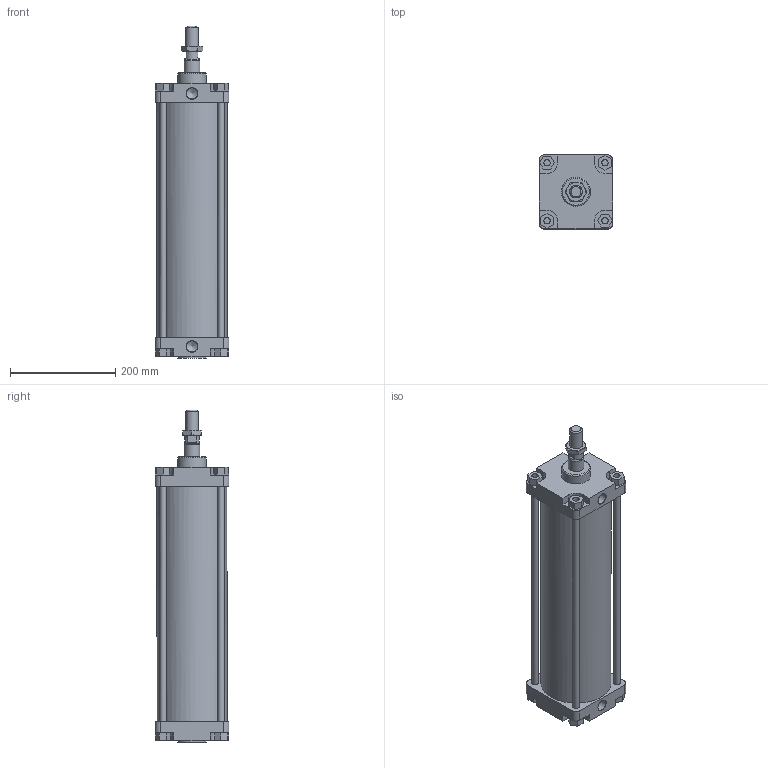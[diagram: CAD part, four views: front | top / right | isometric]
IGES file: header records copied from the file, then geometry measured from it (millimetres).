
Global section: file name: 1304_125_0350_01A; native system: Autodesk Inventor 2014; preprocessor: unknown; author: A. Manieri; date: 20161124.142449; units: millimetre
Bounding box: 140 x 140 x 630 mm (x, y, z)
Volume: 3749613.4 mm3; surface area: 689607.4 mm2
Topology: 9 solids, 9 shells, 175 faces, 440 edges, 295 vertices
Faces by surface type: bspline 175
